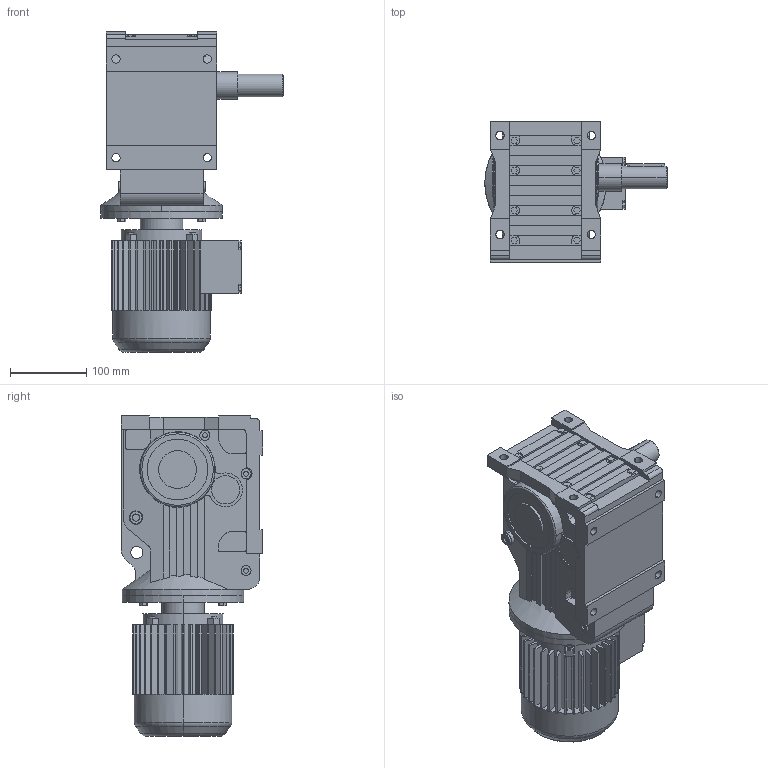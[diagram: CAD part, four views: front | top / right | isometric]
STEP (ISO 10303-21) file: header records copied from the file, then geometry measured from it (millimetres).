
FILE_DESCRIPTION(('Open CASCADE Model'),'2;1');
FILE_NAME('Open CASCADE Shape Model','2021-06-17T16:44:00',('Author'),( 'Open CASCADE'),'Open CASCADE STEP processor 6.3','Open CASCADE 6.3' ,'Unknown');
FILE_SCHEMA(('AUTOMOTIVE_DESIGN_CC2 { 1 2 10303 214 -1 1 5 4 }'));
Length unit declared in the file: millimetre
Products named in the file (4): 1_K47DR63-A; K37‵157_47.step; 萇儂_160-DR63-185-240-132-105.step; す瑩妗陑粣K_47.step
Assembly tree (3 placements, depth 2):
  1_K47DR63-A
    K37‵157_47.step
    萇儂_160-DR63-185-240-132-105.step
    す瑩妗陑粣K_47.step
Bounding box: 240 x 186 x 422 mm (x, y, z)
Volume: 6937652.2 mm3; surface area: 498914.5 mm2
Topology: 3 solids, 3 shells, 834 faces, 2199 edges, 1428 vertices
Faces by surface type: plane 582, cylinder 230, cone 14, torus 8
Entity records: 57265 total; most frequent: CARTESIAN_POINT 15464, DIRECTION 7207, ORIENTED_EDGE 4394, PCURVE 4394, DEFINITIONAL_REPRESENTATION 4394, LINE 3929, VECTOR 3929, EDGE_CURVE 2197
